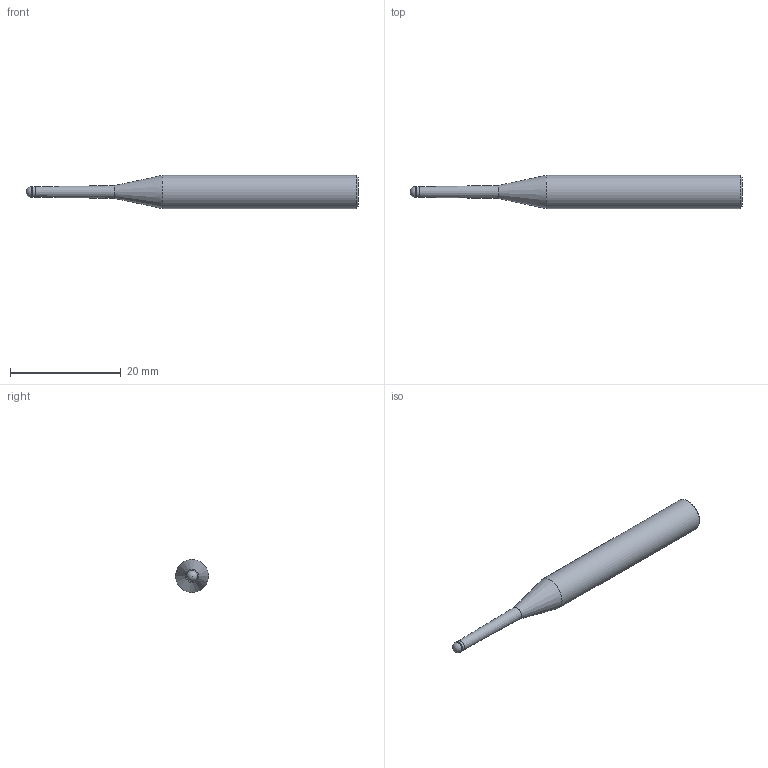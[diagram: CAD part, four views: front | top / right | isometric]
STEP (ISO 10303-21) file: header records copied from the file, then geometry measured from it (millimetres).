
FILE_DESCRIPTION(/* description */ (''),/* implementation_level */ '2;1');
FILE_NAME(/* name */ 'HGXPB2020-16-T0.9 0660.stp',/* time_stamp */ '2026-01-22T09:39:37+08:00',/* author */ (''),/* organization */ (''),/* preprocessor_version */ 'ST-DEVELOPER v16',/* originating_system */ 'SIEMENS PLM Software NX 10.0',/* authorisation */ '');
FILE_SCHEMA (('CONFIG_CONTROL_DESIGN'));
Length unit declared in the file: millimetre
Products named in the file (1): HGXPB2020-16-T0.9 0660_dxf
Bounding box: 60 x 6 x 6 mm (x, y, z)
Volume: 1180.5 mm3; surface area: 913.8 mm2
Topology: 1 solids, 1 shells, 9 faces, 17 edges, 10 vertices
Faces by surface type: cylinder 3, cone 3, plane 2, sphere 1
Full cylindrical faces by diameter (mm): 1.9 x1, 2 x1, 6 x1
Entity records: 258 total; most frequent: DIRECTION 36, CARTESIAN_POINT 26, AXIS2_PLACEMENT_3D 18, EDGE_LOOP 16, ORIENTED_EDGE 16, FACE_BOUND 14, ADVANCED_FACE 9, VERTEX_POINT 8
